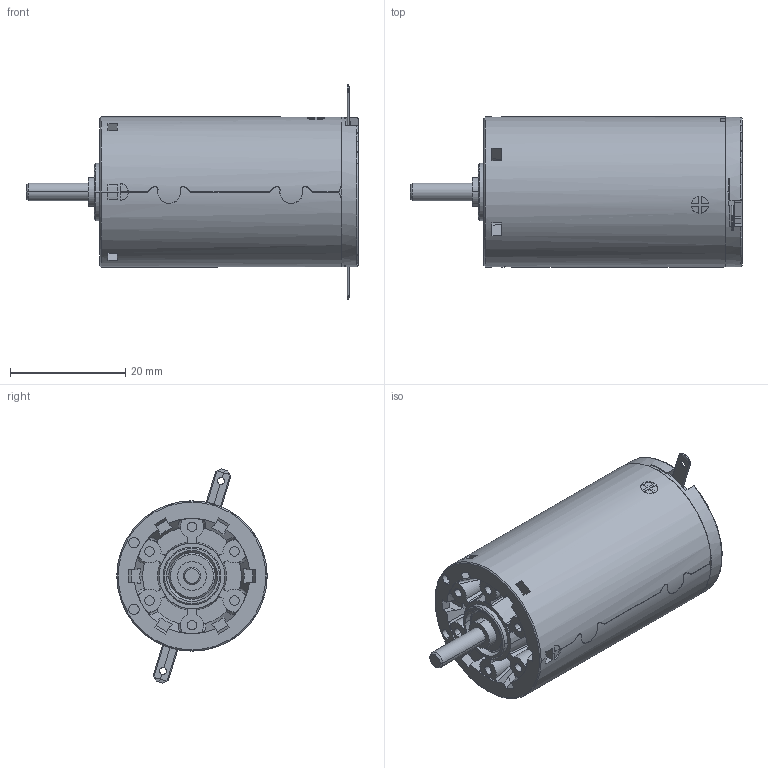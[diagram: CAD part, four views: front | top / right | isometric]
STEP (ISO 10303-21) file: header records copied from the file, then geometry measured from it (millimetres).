
FILE_DESCRIPTION((''),'2;1');
FILE_NAME('110169_AMAX26_EB_4W_SL_1WE','2016-10-14T',('mmagvisi'),(''),'CREO PARAMETRIC BY PTC INC, 2016050','CREO PARAMETRIC BY PTC INC, 2016050','');
FILE_SCHEMA(('CONFIG_CONTROL_DESIGN'));
Length unit declared in the file: millimetre
Products named in the file (1): 110169_AMAX26_EB_4W_SL_1WE
Bounding box: 57.5 x 26 x 37.07 mm (x, y, z)
Volume: 23002.7 mm3; surface area: 6381.8 mm2
Topology: 1 solids, 1 shells, 390 faces, 1017 edges, 644 vertices
Faces by surface type: plane 247, cylinder 99, bspline 24, cone 18, torus 2
Entity records: 19349 total; most frequent: CARTESIAN_POINT 4499, ORIENTED_EDGE 2034, DIRECTION 1833, PRESENTATION_STYLE_ASSIGNMENT 1315, STYLED_ITEM 1018, CURVE_STYLE 1017, EDGE_CURVE 1017, VERTEX_POINT 644
